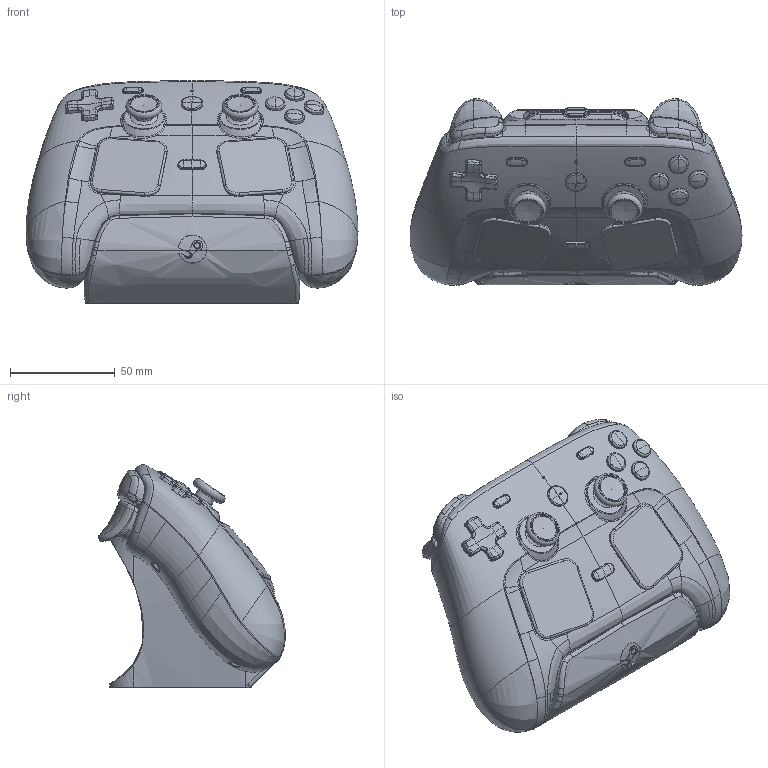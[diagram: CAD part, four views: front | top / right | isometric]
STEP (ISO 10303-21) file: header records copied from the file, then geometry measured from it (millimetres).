
FILE_DESCRIPTION(/* description */ (''),/* implementation_level */ '2;1');
FILE_NAME(/* name */ 'Steamdeck controller dock V1.01 - Hollow.step',/* time_stamp */ '2026-05-17T17:48:26+01:00',/* author */ (''),/* organization */ (''),/* preprocessor_version */ 'ST-DEVELOPER v20.1',/* originating_system */ 'Autodesk Translation Framework v15.8.0.0',/* authorisation */ '');
FILE_SCHEMA (('AUTOMOTIVE_DESIGN { 1 0 10303 214 3 1 1 }'));
Products named in the file (3): Steamdeck controller dock; PUCK_SURFACES_FOR_PUBLIC; IBEX_SOLID
Assembly tree (2 placements, depth 2):
  Steamdeck controller dock
    PUCK_SURFACES_FOR_PUBLIC
    IBEX_SOLID
Bounding box: 158.75 x 89.21 x 106.44 mm (x, y, z)
Volume: 610239.2 mm3; surface area: 85435.7 mm2
Topology: 3 solids, 3 shells, 1097 faces, 2823 edges, 1723 vertices
Faces by surface type: bspline 749, plane 144, cylinder 85, cone 65, torus 44, sphere 10
Full cylindrical faces by diameter (mm): 1 x3, 1.5 x3, 2.385 x3, 2.585 x3, 9.5 x2
Entity records: 157043 total; most frequent: CARTESIAN_POINT 135668, ORIENTED_EDGE 5542, EDGE_CURVE 2771, DIRECTION 2595, VERTEX_POINT 1723, B_SPLINE_CURVE_WITH_KNOTS 1514, EDGE_LOOP 1140, FACE_OUTER_BOUND 1097
